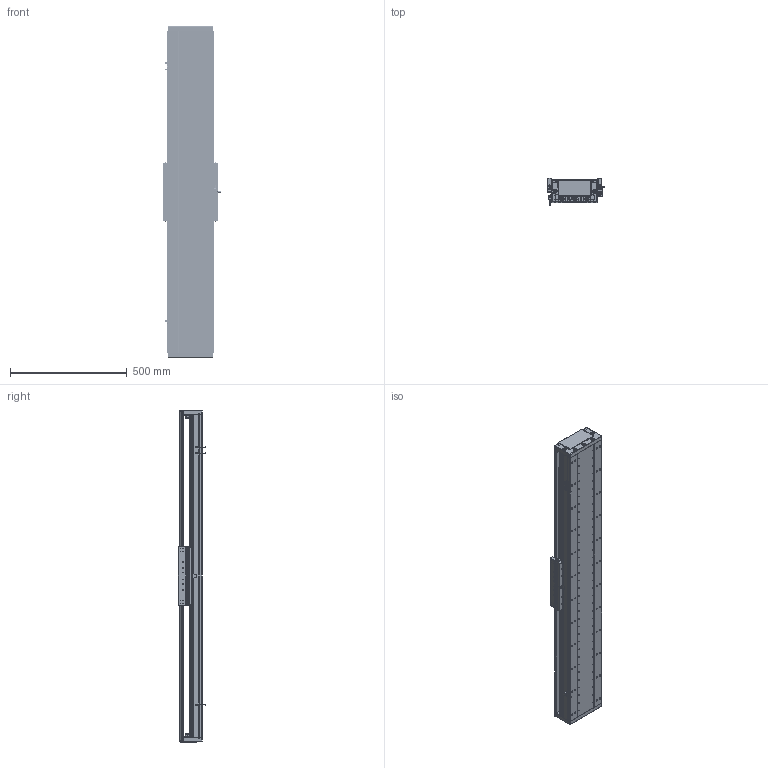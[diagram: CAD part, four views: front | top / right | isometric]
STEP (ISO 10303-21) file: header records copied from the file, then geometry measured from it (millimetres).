
FILE_DESCRIPTION (( 'STEP AP203' ), '1' );
FILE_NAME ('DA-C195-C3-T1080-C010-0.2 眻盄萇儂.STEP', '2025-08-15T01:40:12', ( '' ), ( '' ), 'SwSTEP 2.0', 'SolidWorks 2019', '' );
FILE_SCHEMA (( 'CONFIG_CONTROL_DESIGN' ));
Length unit declared in the file: millimetre
Products named in the file (12): DA195-DG-H-00  端盖（压铸镂空版）; DA165-GYP-00 光电感应片(默认); IU-CU195-L 菁釱絳寢; DA95-HXJ-00 遣喳砎蝶; IU-CU195-L-00 菁釱(L1380); MS200 棠掑喜S315-T240; 66156-0001-003-00 裔啣; PM-T45ㄗ侂狟ㄘ; DA-C195-C3-T1080-C010-0.2 眻盄萇儂; 葩璃 DA95-GT-T-00; CU195-C3賑輸-俋楷; LMT黍杅芛
Assembly tree (20 placements, depth 3):
  DA-C195-C3-T1080-C010-0.2 眻盄萇儂
    IU-CU195-L 菁釱絳寢
      IU-CU195-L-00 菁釱(L1380)
      葩璃 DA95-GT-T-00  x4
    LMT黍杅芛
    MS200 棠掑喜S315-T240
    PM-T45ㄗ侂狟ㄘ  x3
    DA165-GYP-00 光电感应片(默认)
    DA195-DG-H-00  端盖（压铸镂空版）  x2
    DA95-HXJ-00 遣喳砎蝶  x4
    66156-0001-003-00 裔啣
    CU195-C3賑輸-俋楷
Bounding box: 248 x 115.6 x 1420 mm (x, y, z)
Volume: 10069680 mm3; surface area: 2857535.9 mm2
Topology: 78 solids, 118 shells, 5297 faces, 13744 edges, 8387 vertices
Faces by surface type: cylinder 2360, plane 1603, bspline 710, cone 544, torus 44, sphere 36
Entity records: 149453 total; most frequent: CARTESIAN_POINT 46969, ORIENTED_EDGE 21574, DIRECTION 20478, EDGE_CURVE 10787, AXIS2_PLACEMENT_3D 7623, VERTEX_POINT 6817, LINE 5232, VECTOR 5232
